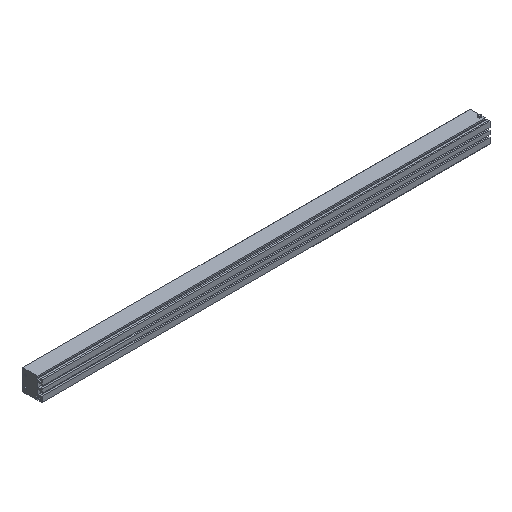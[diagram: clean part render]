
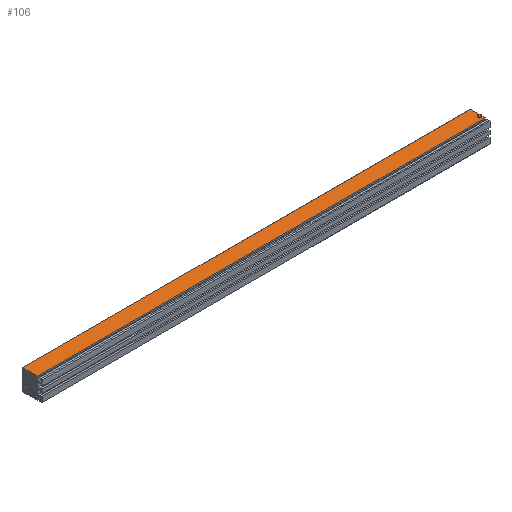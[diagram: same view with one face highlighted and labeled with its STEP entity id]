
A CAD part, isometric view. The second image highlights one B-rep face of the part: STEP entity #106.
In plain terms, the highlighted planar face has unit normal (0, 0, 1).
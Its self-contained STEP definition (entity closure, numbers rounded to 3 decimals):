
#44 = DIRECTION ( 'NONE',  ( 0., -1., 0. ) ) ;
#60 = FACE_BOUND ( 'NONE', #368, .T. ) ;
#61 = CARTESIAN_POINT ( 'NONE',  ( 609., 11.392, 0. ) ) ;
#106 = ADVANCED_FACE ( 'NONE', ( #60, #1169 ), #111, .F. ) ;
#111 = PLANE ( 'NONE',  #731 ) ;
#129 = CARTESIAN_POINT ( 'NONE',  ( 605.3, 11.392, 0. ) ) ;
#222 = DIRECTION ( 'NONE',  ( -1., 0., 0. ) ) ;
#308 = VECTOR ( 'NONE', #44, 1000. ) ;
#324 = CARTESIAN_POINT ( 'NONE',  ( 0., 26.7, 0. ) ) ;
#368 = EDGE_LOOP ( 'NONE', ( #1777, #1364 ) ) ;
#469 = VERTEX_POINT ( 'NONE', #1270 ) ;
#593 = VECTOR ( 'NONE', #1325, 1000. ) ;
#594 = EDGE_CURVE ( 'NONE', #1878, #1607, #992, .T. ) ;
#611 = DIRECTION ( 'NONE',  ( 0., 0., 1. ) ) ;
#672 = CIRCLE ( 'NONE', #740, 1.85 ) ;
#674 = VERTEX_POINT ( 'NONE', #61 ) ;
#721 = DIRECTION ( 'NONE',  ( 0., 0., -1. ) ) ;
#729 = DIRECTION ( 'NONE',  ( -1., 0., 0. ) ) ;
#731 = AXIS2_PLACEMENT_3D ( 'NONE', #1690, #721, #729 ) ;
#740 = AXIS2_PLACEMENT_3D ( 'NONE', #1683, #1532, #2001 ) ;
#757 = DIRECTION ( 'NONE',  ( -1., 0., 0. ) ) ;
#785 = CARTESIAN_POINT ( 'NONE',  ( 610., 26.7, 0. ) ) ;
#865 = CARTESIAN_POINT ( 'NONE',  ( 0., 0., 0. ) ) ;
#877 = EDGE_CURVE ( 'NONE', #1878, #954, #1577, .T. ) ;
#954 = VERTEX_POINT ( 'NONE', #324 ) ;
#977 = CARTESIAN_POINT ( 'NONE',  ( 0., 6.6, 0. ) ) ;
#988 = VECTOR ( 'NONE', #1138, 1000. ) ;
#992 = LINE ( 'NONE', #1638, #593 ) ;
#996 = CARTESIAN_POINT ( 'NONE',  ( 610., 26.7, 0. ) ) ;
#1032 = AXIS2_PLACEMENT_3D ( 'NONE', #1241, #611, #757 ) ;
#1062 = LINE ( 'NONE', #977, #988 ) ;
#1085 = ORIENTED_EDGE ( 'NONE', *, *, #594, .F. ) ;
#1138 = DIRECTION ( 'NONE',  ( 1., 0., 0. ) ) ;
#1160 = EDGE_CURVE ( 'NONE', #674, #1693, #1651, .T. ) ;
#1169 = FACE_OUTER_BOUND ( 'NONE', #1406, .T. ) ;
#1241 = CARTESIAN_POINT ( 'NONE',  ( 607.15, 11.392, 0. ) ) ;
#1249 = LINE ( 'NONE', #865, #308 ) ;
#1270 = CARTESIAN_POINT ( 'NONE',  ( 0., 6.6, 0. ) ) ;
#1325 = DIRECTION ( 'NONE',  ( 0., -1., 0. ) ) ;
#1328 = EDGE_CURVE ( 'NONE', #469, #1607, #1062, .T. ) ;
#1331 = ORIENTED_EDGE ( 'NONE', *, *, #1328, .T. ) ;
#1364 = ORIENTED_EDGE ( 'NONE', *, *, #1160, .F. ) ;
#1390 = ORIENTED_EDGE ( 'NONE', *, *, #877, .T. ) ;
#1406 = EDGE_LOOP ( 'NONE', ( #1085, #1390, #1696, #1331 ) ) ;
#1519 = EDGE_CURVE ( 'NONE', #954, #469, #1249, .T. ) ;
#1532 = DIRECTION ( 'NONE',  ( 0., 0., 1. ) ) ;
#1577 = LINE ( 'NONE', #996, #2042 ) ;
#1607 = VERTEX_POINT ( 'NONE', #1986 ) ;
#1638 = CARTESIAN_POINT ( 'NONE',  ( 610., 0., 0. ) ) ;
#1651 = CIRCLE ( 'NONE', #1032, 1.85 ) ;
#1664 = EDGE_CURVE ( 'NONE', #1693, #674, #672, .T. ) ;
#1683 = CARTESIAN_POINT ( 'NONE',  ( 607.15, 11.392, 0. ) ) ;
#1690 = CARTESIAN_POINT ( 'NONE',  ( 610., 0., 0. ) ) ;
#1693 = VERTEX_POINT ( 'NONE', #129 ) ;
#1696 = ORIENTED_EDGE ( 'NONE', *, *, #1519, .T. ) ;
#1777 = ORIENTED_EDGE ( 'NONE', *, *, #1664, .F. ) ;
#1878 = VERTEX_POINT ( 'NONE', #785 ) ;
#1986 = CARTESIAN_POINT ( 'NONE',  ( 610., 6.6, 0. ) ) ;
#2001 = DIRECTION ( 'NONE',  ( -1., 0., 0. ) ) ;
#2042 = VECTOR ( 'NONE', #222, 1000. ) ;
